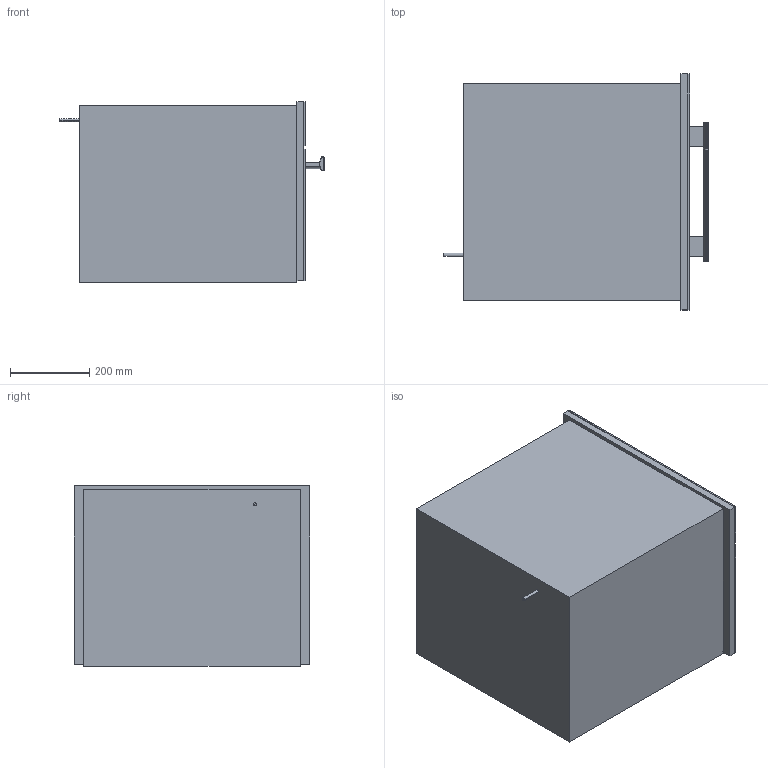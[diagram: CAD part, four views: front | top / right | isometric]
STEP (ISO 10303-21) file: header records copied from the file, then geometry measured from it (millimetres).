
FILE_DESCRIPTION(/* description */ (''),/* implementation_level */ '2;1');
FILE_NAME(/* name */ 'DGC6600_BRWS',/* time_stamp */ '2013-03-11T12:09:52+01:00',/* author */ (''),/* organization */ (''),/* preprocessor_version */ 'ST-DEVELOPER v10',/* originating_system */ '',/* authorisation */ '');
FILE_SCHEMA (('AUTOMOTIVE_DESIGN_CC2'));
Length unit declared in the file: millimetre
Products named in the file (1): 1
Bounding box: 666.65 x 595 x 455.51 mm (x, y, z)
Volume: 87464098.6 mm3; surface area: 3671663.8 mm2
Topology: 45 solids, 46 shells, 255 faces, 474 edges, 300 vertices
Faces by surface type: bspline 255
Entity records: 13379 total; most frequent: CARTESIAN_POINT 10133, ORIENTED_EDGE 912, EDGE_CURVE 462, VERTEX_POINT 300, EDGE_LOOP 259, ADVANCED_FACE 255, FACE_OUTER_BOUND 255, B_SPLINE_CURVE_WITH_KNOTS 170
